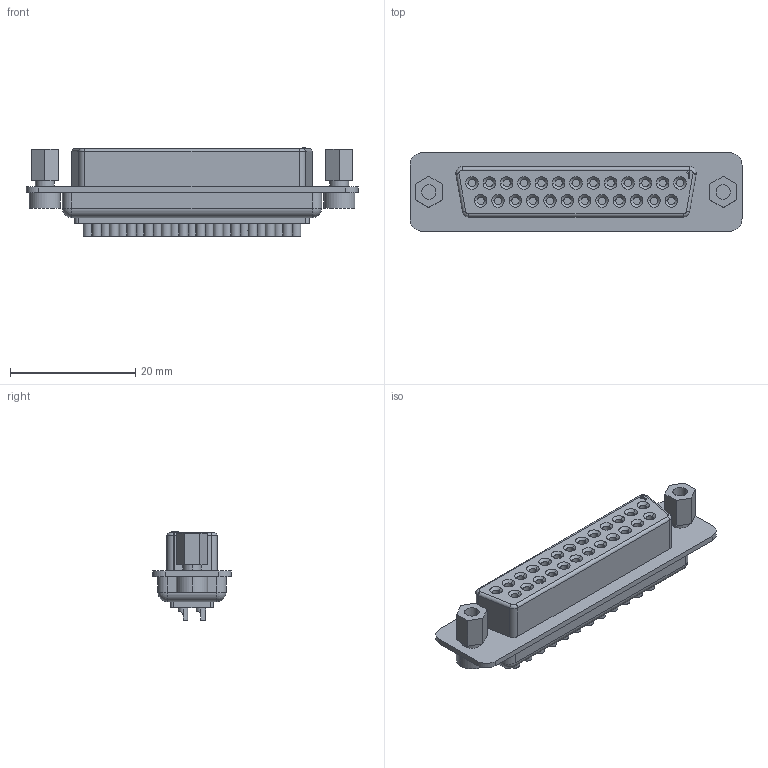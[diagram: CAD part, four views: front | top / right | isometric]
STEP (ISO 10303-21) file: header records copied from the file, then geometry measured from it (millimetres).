
FILE_DESCRIPTION (( 'STEP AP214' ), '1' );
FILE_NAME ('DB-25F.STEP', '2011-05-17T10:15:25', ( 'vpeshkov' ), ( 'licard' ), 'SwSTEP 2.0', 'SolidWorks 2009', '' );
FILE_SCHEMA (( 'AUTOMOTIVE_DESIGN' ));
Length unit declared in the file: millimetre
Products named in the file (1): DB-25F
Bounding box: 53.04 x 12.6 x 14.2 mm (x, y, z)
Volume: 4538.9 mm3; surface area: 3503.7 mm2
Topology: 1 solids, 1 shells, 452 faces, 1016 edges, 626 vertices
Faces by surface type: cylinder 216, plane 176, cone 50, torus 6, sphere 4
Entity records: 16373 total; most frequent: CARTESIAN_POINT 2966, DIRECTION 2234, ORIENTED_EDGE 2024, EDGE_CURVE 1012, AXIS2_PLACEMENT_3D 844, VERTEX_POINT 626, VECTOR 546, LINE 546
